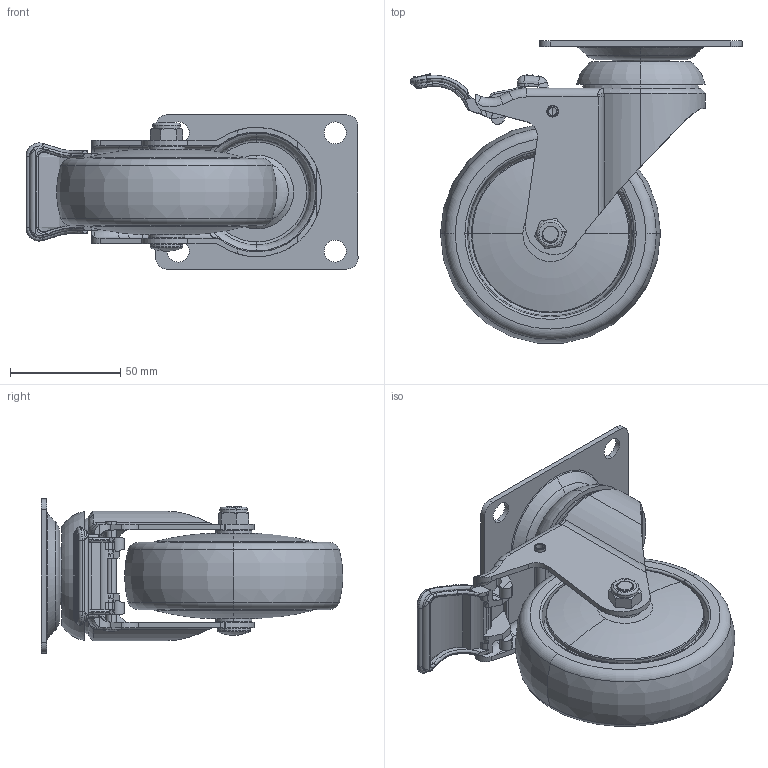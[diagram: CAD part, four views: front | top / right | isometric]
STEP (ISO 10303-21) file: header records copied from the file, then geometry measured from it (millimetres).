
FILE_DESCRIPTION (( 'STEP AP203' ), '1' );
FILE_NAME ('4111604004022-儀器白鐵活煞PPR輪.STEP', '2026-02-10T03:23:16', ( '' ), ( '' ), 'SwSTEP 2.0', 'SolidWorks 2019', '' );
FILE_SCHEMA (( 'CONFIG_CONTROL_DESIGN' ));
Length unit declared in the file: metre
Products named in the file (1): 4111604004022-儀器白鐵活煞PPR輪
Bounding box: 150.86 x 137.2 x 70 mm (x, y, z)
Surface area: 86134.1 mm2 (no closed solid volume)
Topology: 0 solids, 16 shells, 486 faces, 1364 edges, 873 vertices
Faces by surface type: cylinder 134, plane 129, bspline 106, torus 91, sphere 16, cone 10
Entity records: 25561 total; most frequent: CARTESIAN_POINT 14122, ORIENTED_EDGE 2477, DIRECTION 2123, EDGE_CURVE 1357, VERTEX_POINT 873, AXIS2_PLACEMENT_3D 841, EDGE_LOOP 526, FACE_OUTER_BOUND 486
